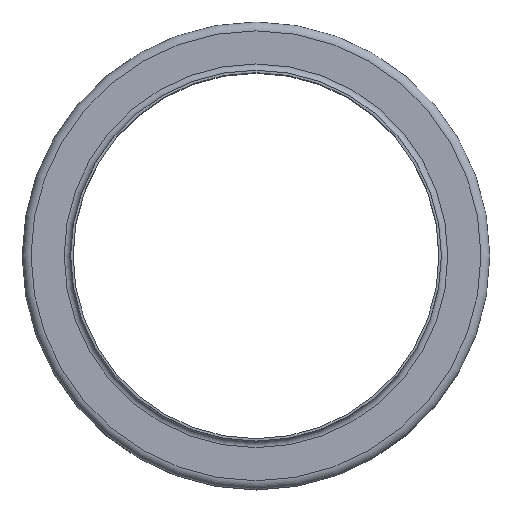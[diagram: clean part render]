
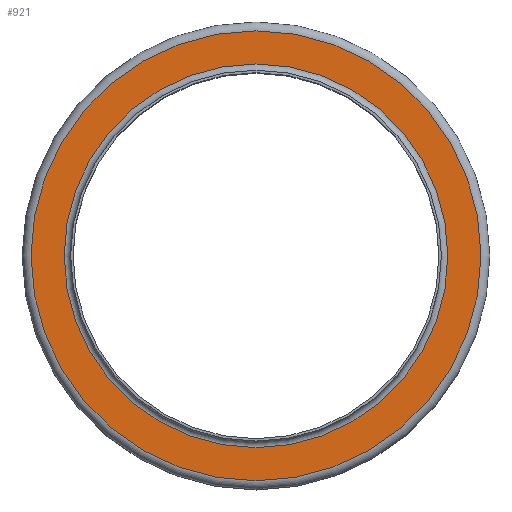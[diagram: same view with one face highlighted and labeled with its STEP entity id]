
A CAD part, top view. The second image highlights one B-rep face of the part: STEP entity #921.
In plain terms, the highlighted planar face has unit normal (0, 0, 1).
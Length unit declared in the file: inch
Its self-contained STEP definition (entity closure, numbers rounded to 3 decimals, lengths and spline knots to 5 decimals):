
#98=FACE_BOUND('',#272,.T.);
#165=FACE_OUTER_BOUND('',#271,.T.);
#271=EDGE_LOOP('',(#772));
#272=EDGE_LOOP('',(#773));
#385=CIRCLE('',#1110,2.35875);
#386=CIRCLE('',#1112,2.76625);
#466=VERTEX_POINT('',#1734);
#467=VERTEX_POINT('',#1738);
#571=EDGE_CURVE('',#466,#466,#385,.T.);
#572=EDGE_CURVE('',#467,#467,#386,.T.);
#772=ORIENTED_EDGE('',*,*,#572,.F.);
#773=ORIENTED_EDGE('',*,*,#571,.T.);
#854=PLANE('',#1111);
#921=ADVANCED_FACE('',(#165,#98),#854,.T.);
#1110=AXIS2_PLACEMENT_3D('',#1736,#1446,#1447);
#1111=AXIS2_PLACEMENT_3D('',#1737,#1448,#1449);
#1112=AXIS2_PLACEMENT_3D('',#1739,#1450,#1451);
#1446=DIRECTION('center_axis',(0.,0.,-1.));
#1447=DIRECTION('ref_axis',(1.,0.,0.));
#1448=DIRECTION('center_axis',(0.,0.,1.));
#1449=DIRECTION('ref_axis',(1.,0.,0.));
#1450=DIRECTION('center_axis',(0.,0.,-1.));
#1451=DIRECTION('ref_axis',(1.,0.,0.));
#1734=CARTESIAN_POINT('',(2.35875,0.,-0.07875));
#1736=CARTESIAN_POINT('Origin',(0.,0.,-0.07875));
#1737=CARTESIAN_POINT('Origin',(0.,2.76625,-0.07875));
#1738=CARTESIAN_POINT('',(2.76625,0.,-0.07875));
#1739=CARTESIAN_POINT('Origin',(0.,0.,-0.07875));
